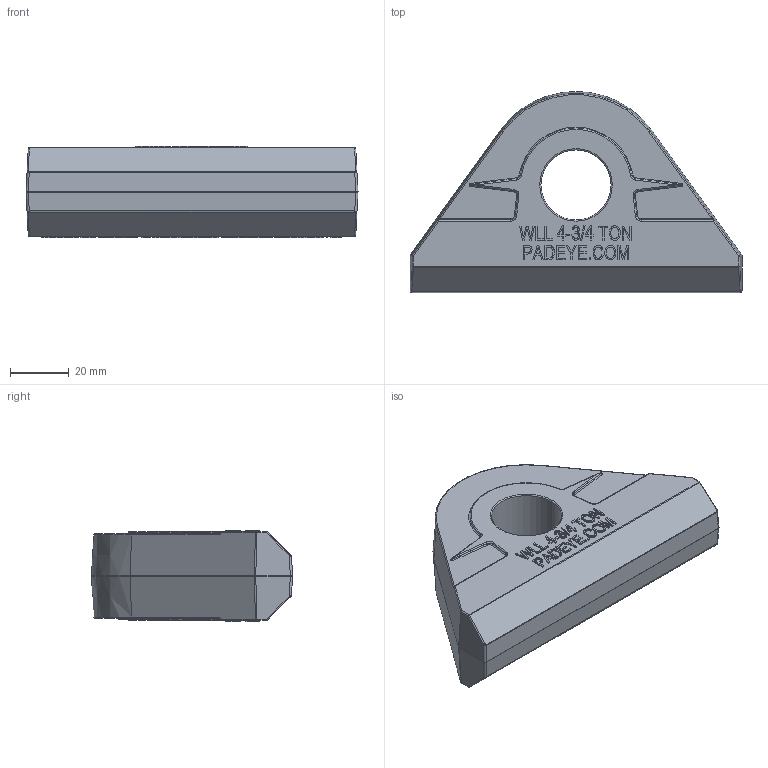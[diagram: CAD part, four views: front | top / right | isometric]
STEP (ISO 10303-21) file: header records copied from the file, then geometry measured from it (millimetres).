
FILE_DESCRIPTION (( 'STEP AP214' ), '1' );
FILE_NAME ('CSE.STEP', '2024-04-23T14:28:33', ( '' ), ( '' ), 'SwSTEP 2.0', 'SolidWorks 2018', '' );
FILE_SCHEMA (( 'AUTOMOTIVE_DESIGN' ));
Length unit declared in the file: inch
Products named in the file (1): CSE
Bounding box: 112.71 x 68.26 x 30.92 mm (x, y, z)
Volume: 135823.6 mm3; surface area: 20102.4 mm2
Topology: 1 solids, 1 shells, 1233 faces, 3245 edges, 2103 vertices
Faces by surface type: plane 789, bspline 284, cylinder 97, torus 46, sphere 15, cone 2
Entity records: 49840 total; most frequent: CARTESIAN_POINT 21236, ORIENTED_EDGE 6462, DIRECTION 4818, EDGE_CURVE 3231, LINE 2408, VECTOR 2408, VERTEX_POINT 2103, EDGE_LOOP 1338
